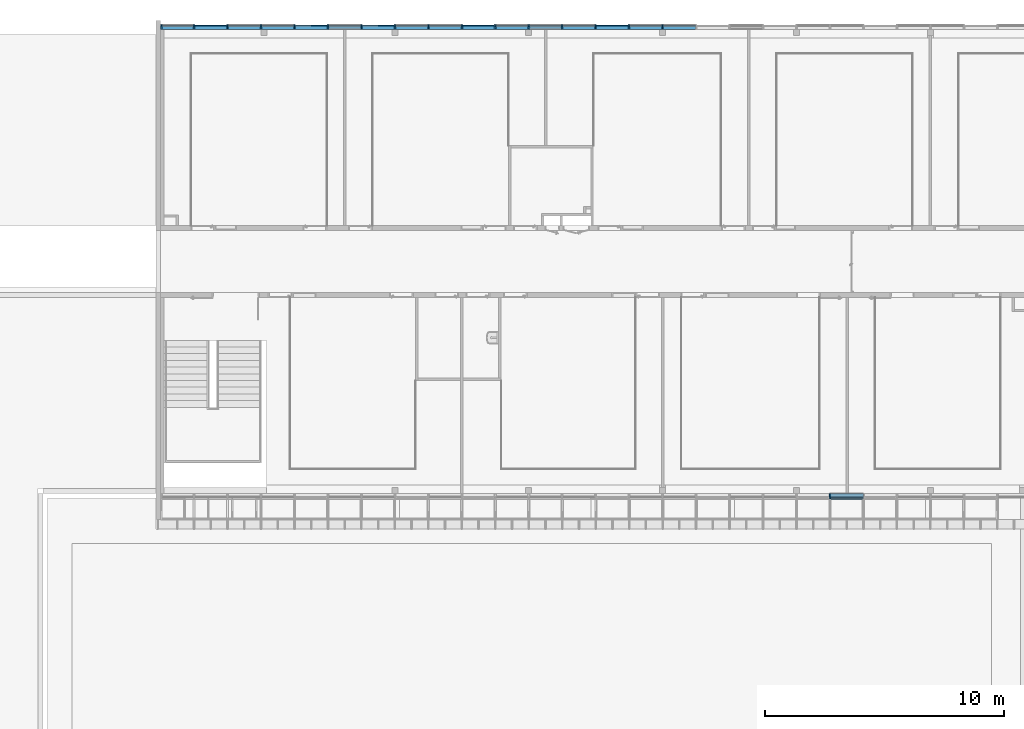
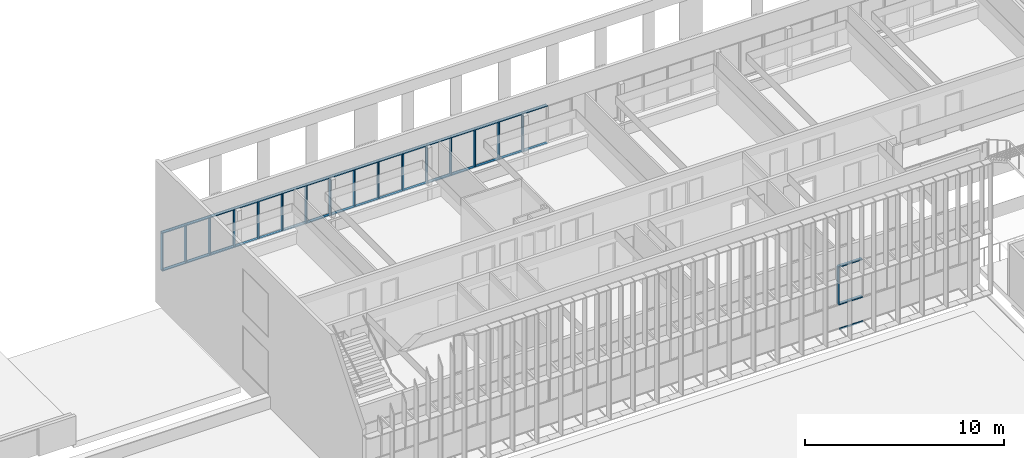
# One storey, part 9 of 106: 52 members, 3 elements without a shape of their own.
"""IFC2X3 building model written with IfcOpenShell, lengths in centimetres."""

from ifc_helpers import new_model, entity, si_unit, converted_unit, derived_unit, direction, frame, origin, origin_2d_with_axis, place, context, subcontext, project, spatial, polyline, rectangle, outline, extrude, source, transform, mapped, material, type_object, type_shapes, element, aggregate, save


model = new_model("IFC2X3")

# Units and contexts
model_context = context("Model", 3, precision=0.001, world=origin(), true_north=direction((6.12303176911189e-17, 1.0)))
body_context = subcontext(model_context, "Body", "Model", "MODEL_VIEW")
ifc_project = project(units=[si_unit("LENGTHUNIT", "METRE", prefix="CENTI"), si_unit("AREAUNIT", "SQUARE_METRE"), si_unit("VOLUMEUNIT", "CUBIC_METRE"), converted_unit("PLANEANGLEUNIT", "DEGREE", entity("IfcRatioMeasure", 0.0174532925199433), si_unit("PLANEANGLEUNIT", "RADIAN"), dimensions=[0, 0, 0, 0, 0, 0, 0]), si_unit("MASSUNIT", "GRAM", prefix="KILO"), derived_unit("MASSDENSITYUNIT", [(si_unit("MASSUNIT", "GRAM", prefix="KILO"), 1), (si_unit("LENGTHUNIT", "METRE"), -3)]), si_unit("TIMEUNIT", "SECOND"), si_unit("FREQUENCYUNIT", "HERTZ"), si_unit("THERMODYNAMICTEMPERATUREUNIT", "DEGREE_CELSIUS"), derived_unit("THERMALTRANSMITTANCEUNIT", [(si_unit("MASSUNIT", "GRAM", prefix="KILO"), 1), (si_unit("THERMODYNAMICTEMPERATUREUNIT", "KELVIN"), -1), (si_unit("TIMEUNIT", "SECOND"), -3)]), derived_unit("VOLUMETRICFLOWRATEUNIT", [(si_unit("LENGTHUNIT", "METRE"), 3), (si_unit("TIMEUNIT", "SECOND"), -1)]), si_unit("ELECTRICCURRENTUNIT", "AMPERE"), si_unit("ELECTRICVOLTAGEUNIT", "VOLT"), si_unit("POWERUNIT", "WATT"), si_unit("FORCEUNIT", "NEWTON", prefix="KILO"), si_unit("ILLUMINANCEUNIT", "LUX"), si_unit("LUMINOUSFLUXUNIT", "LUMEN"), si_unit("LUMINOUSINTENSITYUNIT", "CANDELA"), derived_unit("USERDEFINED", [(si_unit("MASSUNIT", "GRAM", prefix="KILO"), -1), (si_unit("LENGTHUNIT", "METRE"), -2), (si_unit("TIMEUNIT", "SECOND"), 3), (si_unit("LUMINOUSFLUXUNIT", "LUMEN"), 1)]), derived_unit("LINEARVELOCITYUNIT", [(si_unit("LENGTHUNIT", "METRE"), 1), (si_unit("TIMEUNIT", "SECOND"), -1)]), si_unit("PRESSUREUNIT", "PASCAL"), derived_unit("USERDEFINED", [(si_unit("LENGTHUNIT", "METRE"), -2), (si_unit("MASSUNIT", "GRAM", prefix="KILO"), 1), (si_unit("TIMEUNIT", "SECOND"), -2)])], contexts=[model_context])

# Site, building, storey
site_placement = place(None, frame((-2781.94577612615, 7442.24238424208, 0.0)))
site = spatial("IfcSite", under=ifc_project, at=site_placement, Name="Default", CompositionType="ELEMENT")
building_placement = place(site_placement, origin())
building = spatial("IfcBuilding", under=site, at=building_placement, CompositionType="ELEMENT")
storey_placement = place(building_placement, frame((0.0, 0.0, 422.0)))
storey = spatial("IfcBuildingStorey", under=building, at=storey_placement, Name="Toiture - Cuisine", CompositionType="ELEMENT", Elevation=421.999999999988)

# Roof, member
curtain_wall_type_1 = type_object("IfcCurtainWallType", Name="Vitres inclinées:Toit en verre 1 m x 2 m", PredefinedType="NOTDEFINED")
roof_placement = place(building_placement, origin())
roof = element("IfcRoof", 1, at=roof_placement, inside=storey, type_object=curtain_wall_type_1, Name="Vitres inclinées:Toit en verre 1 m x 2 m", ObjectType="Vitres inclinées:Toit en verre 1 m x 2 m", ShapeType="NOTDEFINED")
ifc_material_1 = material(Name="Plastique, blanc opaque")
member_type_1 = type_object("IfcMemberType", Name="100 x 50mm", PredefinedType="MEMBER")
shared_shape_1 = source(origin(), body_context, "Body", "SweptSolid", [
    extrude(rectangle(XDim=10.0, YDim=5.0, at=origin_2d_with_axis()), frame((-2.5, 0.0, -140.0), z_axis=(0.0, 0.0, 1.0), x_axis=(0.0, -1.0, 0.0)), (0.0, 0.0, 1.0), 140.0),
])
type_shapes(member_type_1, [shared_shape_1])
member_1_placement = place(building_placement, frame((-5609.50004166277, -1950.34071342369, 362.709847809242), z_axis=(-1.0, 0.0, 0.0), x_axis=(0.0, 0.998629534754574, 0.0523359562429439)))
member_1 = element("IfcMember", 2, at=member_1_placement, type_object=member_type_1, material=ifc_material_1, Name="Meneau rectangulaire:100 x 50mm", ObjectType="Meneau rectangulaire:100 x 50mm", context=body_context, shape_type="MappedRepresentation", body=[
    mapped(shared_shape_1, transform((0.0, 0.0, 0.0), scale=1.0)),
])
aggregate(roof, [member_1])

# Curtain wall, members
curtain_wall_type_2 = type_object("IfcCurtainWallType", Name="Mur-rideau:07 - mur rideau trame 140 cm", PredefinedType="NOTDEFINED")
curtain_wall_1_placement = place(building_placement, origin())
curtain_wall_1 = element("IfcCurtainWall", 3, at=curtain_wall_1_placement, inside=storey, type_object=curtain_wall_type_2, Name="Mur-rideau:07 - mur rideau trame 140 cm", ObjectType="Mur-rideau:07 - mur rideau trame 140 cm")
ifc_material_2 = material(Name="Aluminium")
member_type_2 = type_object("IfcMemberType", Name="150 x 25mm Détails", PredefinedType="MEMBER")
shared_shape_2 = source(origin(), body_context, "Body", "SweptSolid", [
    extrude(outline(polyline([(-5.6666666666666, -3.24999999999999), (-3.66666666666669, -3.24999999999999), (-3.66666666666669, -0.868749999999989), (-0.166666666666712, -0.868749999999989), (-0.166666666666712, -3.25000000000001), (13.3333333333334, -3.25000000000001), (13.3333333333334, 3.24999999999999), (-0.16666666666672, 3.24999999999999), (-0.16666666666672, 0.868749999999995), (-3.66666666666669, 0.868749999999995), (-3.66666666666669, 3.25), (-5.6666666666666, 3.25), (-5.6666666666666, -3.24999999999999)])), frame((-3.24999999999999, -1.96666666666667, -140.0), z_axis=(0.0, 0.0, 1.0), x_axis=(0.0, -1.0, 0.0)), (0.0, 0.0, 1.0), 140.000000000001),
])
type_shapes(member_type_2, [shared_shape_2])
member_2_placement = place(building_placement, frame((-6309.50004159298, 26.0, 743.0), z_axis=(-1.0, 0.0, 0.0), x_axis=(0.0, 0.0, 1.0)))
member_2 = element("IfcMember", 4, at=member_2_placement, type_object=member_type_2, material=ifc_material_2, Name="Meneau rectangulaire:150 x 25mm Détails", ObjectType="Meneau rectangulaire:150 x 25mm Détails", context=body_context, shape_type="MappedRepresentation", body=[
    mapped(shared_shape_2, transform((0.0, 0.0, 0.0), scale=1.0)),
])
member_3_placement = place(building_placement, frame((-6449.50004159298, 26.0, 743.0), z_axis=(-1.0, 0.0, 0.0), x_axis=(0.0, 0.0, 1.0)))
member_3 = element("IfcMember", 5, at=member_3_placement, type_object=member_type_2, material=ifc_material_2, Name="Meneau rectangulaire:150 x 25mm Détails", ObjectType="Meneau rectangulaire:150 x 25mm Détails", context=body_context, shape_type="MappedRepresentation", body=[
    mapped(shared_shape_2, transform((0.0, 0.0, 0.0), scale=1.0)),
])
member_4_placement = place(building_placement, frame((-6589.50004159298, 26.0, 743.0), z_axis=(-1.0, 0.0, 0.0), x_axis=(0.0, 0.0, 1.0)))
member_4 = element("IfcMember", 6, at=member_4_placement, type_object=member_type_2, material=ifc_material_2, Name="Meneau rectangulaire:150 x 25mm Détails", ObjectType="Meneau rectangulaire:150 x 25mm Détails", context=body_context, shape_type="MappedRepresentation", body=[
    mapped(shared_shape_2, transform((0.0, 0.0, 0.0), scale=1.0)),
])
member_5_placement = place(building_placement, frame((-6729.50004159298, 26.0, 743.0), z_axis=(-1.0, 0.0, 0.0), x_axis=(0.0, 0.0, 1.0)))
member_5 = element("IfcMember", 7, at=member_5_placement, type_object=member_type_2, material=ifc_material_2, Name="Meneau rectangulaire:150 x 25mm Détails", ObjectType="Meneau rectangulaire:150 x 25mm Détails", context=body_context, shape_type="MappedRepresentation", body=[
    mapped(shared_shape_2, transform((0.0, 0.0, 0.0), scale=1.0)),
])
member_6_placement = place(building_placement, frame((-6869.50004159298, 26.0, 743.0), z_axis=(-1.0, 0.0, 0.0), x_axis=(0.0, 0.0, 1.0)))
member_6 = element("IfcMember", 8, at=member_6_placement, type_object=member_type_2, material=ifc_material_2, Name="Meneau rectangulaire:150 x 25mm Détails", ObjectType="Meneau rectangulaire:150 x 25mm Détails", context=body_context, shape_type="MappedRepresentation", body=[
    mapped(shared_shape_2, transform((0.0, 0.0, 0.0), scale=1.0)),
])
member_7_placement = place(building_placement, frame((-7009.50004159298, 26.0, 743.0), z_axis=(-1.0, 0.0, 0.0), x_axis=(0.0, 0.0, 1.0)))
member_7 = element("IfcMember", 9, at=member_7_placement, type_object=member_type_2, material=ifc_material_2, Name="Meneau rectangulaire:150 x 25mm Détails", ObjectType="Meneau rectangulaire:150 x 25mm Détails", context=body_context, shape_type="MappedRepresentation", body=[
    mapped(shared_shape_2, transform((0.0, 0.0, 0.0), scale=1.0)),
])
member_8_placement = place(building_placement, frame((-7149.50004159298, 26.0, 743.0), z_axis=(-1.0, 0.0, 0.0), x_axis=(0.0, 0.0, 1.0)))
member_8 = element("IfcMember", 10, at=member_8_placement, type_object=member_type_2, material=ifc_material_2, Name="Meneau rectangulaire:150 x 25mm Détails", ObjectType="Meneau rectangulaire:150 x 25mm Détails", context=body_context, shape_type="MappedRepresentation", body=[
    mapped(shared_shape_2, transform((0.0, 0.0, 0.0), scale=1.0)),
])
member_9_placement = place(building_placement, frame((-7289.50004159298, 26.0, 743.0), z_axis=(-1.0, 0.0, 0.0), x_axis=(0.0, 0.0, 1.0)))
member_9 = element("IfcMember", 11, at=member_9_placement, type_object=member_type_2, material=ifc_material_2, Name="Meneau rectangulaire:150 x 25mm Détails", ObjectType="Meneau rectangulaire:150 x 25mm Détails", context=body_context, shape_type="MappedRepresentation", body=[
    mapped(shared_shape_2, transform((0.0, 0.0, 0.0), scale=1.0)),
])
member_10_placement = place(building_placement, frame((-7429.50004159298, 26.0, 743.0), z_axis=(-1.0, 0.0, 0.0), x_axis=(0.0, 0.0, 1.0)))
member_10 = element("IfcMember", 12, at=member_10_placement, type_object=member_type_2, material=ifc_material_2, Name="Meneau rectangulaire:150 x 25mm Détails", ObjectType="Meneau rectangulaire:150 x 25mm Détails", context=body_context, shape_type="MappedRepresentation", body=[
    mapped(shared_shape_2, transform((0.0, 0.0, 0.0), scale=1.0)),
])
member_11_placement = place(building_placement, frame((-7569.50004159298, 26.0, 743.0), z_axis=(-1.0, 0.0, 0.0), x_axis=(0.0, 0.0, 1.0)))
member_11 = element("IfcMember", 13, at=member_11_placement, type_object=member_type_2, material=ifc_material_2, Name="Meneau rectangulaire:150 x 25mm Détails", ObjectType="Meneau rectangulaire:150 x 25mm Détails", context=body_context, shape_type="MappedRepresentation", body=[
    mapped(shared_shape_2, transform((0.0, 0.0, 0.0), scale=1.0)),
])
member_12_placement = place(building_placement, frame((-7709.50004159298, 26.0, 743.0), z_axis=(-1.0, 0.0, 0.0), x_axis=(0.0, 0.0, 1.0)))
member_12 = element("IfcMember", 14, at=member_12_placement, type_object=member_type_2, material=ifc_material_2, Name="Meneau rectangulaire:150 x 25mm Détails", ObjectType="Meneau rectangulaire:150 x 25mm Détails", context=body_context, shape_type="MappedRepresentation", body=[
    mapped(shared_shape_2, transform((0.0, 0.0, 0.0), scale=1.0)),
])
member_13_placement = place(building_placement, frame((-7849.50004159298, 26.0, 743.0), z_axis=(-1.0, 0.0, 0.0), x_axis=(0.0, 0.0, 1.0)))
member_13 = element("IfcMember", 15, at=member_13_placement, type_object=member_type_2, material=ifc_material_2, Name="Meneau rectangulaire:150 x 25mm Détails", ObjectType="Meneau rectangulaire:150 x 25mm Détails", context=body_context, shape_type="MappedRepresentation", body=[
    mapped(shared_shape_2, transform((0.0, 0.0, 0.0), scale=1.0)),
])
member_14_placement = place(building_placement, frame((-7989.50004159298, 26.0, 743.0), z_axis=(-1.0, 0.0, 0.0), x_axis=(0.0, 0.0, 1.0)))
member_14 = element("IfcMember", 16, at=member_14_placement, type_object=member_type_2, material=ifc_material_2, Name="Meneau rectangulaire:150 x 25mm Détails", ObjectType="Meneau rectangulaire:150 x 25mm Détails", context=body_context, shape_type="MappedRepresentation", body=[
    mapped(shared_shape_2, transform((0.0, 0.0, 0.0), scale=1.0)),
])
member_15_placement = place(building_placement, frame((-8129.50004159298, 26.0, 743.0), z_axis=(-1.0, 0.0, 0.0), x_axis=(0.0, 0.0, 1.0)))
member_15 = element("IfcMember", 17, at=member_15_placement, type_object=member_type_2, material=ifc_material_2, Name="Meneau rectangulaire:150 x 25mm Détails", ObjectType="Meneau rectangulaire:150 x 25mm Détails", context=body_context, shape_type="MappedRepresentation", body=[
    mapped(shared_shape_2, transform((0.0, 0.0, 0.0), scale=1.0)),
])
member_16_placement = place(building_placement, frame((-8269.50004159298, 26.0, 743.0), z_axis=(-1.0, 0.0, 0.0), x_axis=(0.0, 0.0, 1.0)))
member_16 = element("IfcMember", 18, at=member_16_placement, type_object=member_type_2, material=ifc_material_2, Name="Meneau rectangulaire:150 x 25mm Détails", ObjectType="Meneau rectangulaire:150 x 25mm Détails", context=body_context, shape_type="MappedRepresentation", body=[
    mapped(shared_shape_2, transform((0.0, 0.0, 0.0), scale=1.0)),
])

# Curtain wall, member
curtain_wall_2_placement = place(building_placement, origin())
curtain_wall_2 = element("IfcCurtainWall", 19, at=curtain_wall_2_placement, inside=storey, type_object=curtain_wall_type_2, Name="Mur-rideau:07 - mur rideau trame 140 cm", ObjectType="Mur-rideau:07 - mur rideau trame 140 cm")
member_17_placement = place(building_placement, frame((-5469.49987763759, -1946.27903364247, 743.0), z_axis=(1.0, 0.0, 0.0), x_axis=(0.0, 0.0, 1.0)))
member_17 = element("IfcMember", 20, at=member_17_placement, type_object=member_type_2, material=ifc_material_2, Name="Meneau rectangulaire:150 x 25mm Détails", ObjectType="Meneau rectangulaire:150 x 25mm Détails", context=body_context, shape_type="MappedRepresentation", body=[
    mapped(shared_shape_2, transform((0.0, 0.0, 0.0), scale=1.0)),
])

# Member
member_type_3 = type_object("IfcMemberType", Name="150 x 25mm Détails", PredefinedType="MEMBER")
shared_shape_3 = source(origin(), body_context, "Body", "SweptSolid", [
    extrude(outline(polyline([(-5.66666666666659, -3.25), (-3.66666666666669, -3.25), (-3.66666666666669, -0.868749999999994), (-0.166666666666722, -0.868749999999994), (-0.166666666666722, -3.25000000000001), (13.3333333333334, -3.24999999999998), (13.3333333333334, 3.25000000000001), (-0.166666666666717, 3.25000000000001), (-0.166666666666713, 0.868749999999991), (-3.66666666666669, 0.868749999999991), (-3.66666666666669, 3.24999999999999), (-5.66666666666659, 3.24999999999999), (-5.66666666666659, -3.25)])), frame((-3.24999999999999, -1.96666666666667, -140.0), z_axis=(0.0, 0.0, 1.0), x_axis=(0.0, -1.0, 0.0)), (0.0, 0.0, 1.0), 140.000000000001),
])
type_shapes(member_type_3, [shared_shape_3])
member_18_placement = place(building_placement, frame((-6169.50004159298, 26.0, 505.5), z_axis=(1.0, 0.0, 0.0), x_axis=(0.0, 0.0, -1.0)))
member_18 = element("IfcMember", 21, at=member_18_placement, type_object=member_type_3, material=ifc_material_2, Name="Meneau rectangulaire:150 x 25mm Détails", ObjectType="Meneau rectangulaire:150 x 25mm Détails", context=body_context, shape_type="MappedRepresentation", body=[
    mapped(shared_shape_3, transform((0.0, 0.0, 0.0), scale=1.0)),
])

member_19_placement = place(building_placement, frame((-6309.50004159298, 26.0, 505.5), z_axis=(1.0, 0.0, 0.0), x_axis=(0.0, 0.0, -1.0)))
member_19 = element("IfcMember", 22, at=member_19_placement, type_object=member_type_3, material=ifc_material_2, Name="Meneau rectangulaire:150 x 25mm Détails", ObjectType="Meneau rectangulaire:150 x 25mm Détails", context=body_context, shape_type="MappedRepresentation", body=[
    mapped(shared_shape_3, transform((0.0, 0.0, 0.0), scale=1.0)),
])

member_20_placement = place(building_placement, frame((-6449.50004159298, 26.0, 505.5), z_axis=(1.0, 0.0, 0.0), x_axis=(0.0, 0.0, -1.0)))
member_20 = element("IfcMember", 23, at=member_20_placement, type_object=member_type_3, material=ifc_material_2, Name="Meneau rectangulaire:150 x 25mm Détails", ObjectType="Meneau rectangulaire:150 x 25mm Détails", context=body_context, shape_type="MappedRepresentation", body=[
    mapped(shared_shape_3, transform((0.0, 0.0, 0.0), scale=1.0)),
])

member_21_placement = place(building_placement, frame((-6589.50004159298, 26.0, 505.5), z_axis=(1.0, 0.0, 0.0), x_axis=(0.0, 0.0, -1.0)))
member_21 = element("IfcMember", 24, at=member_21_placement, type_object=member_type_3, material=ifc_material_2, Name="Meneau rectangulaire:150 x 25mm Détails", ObjectType="Meneau rectangulaire:150 x 25mm Détails", context=body_context, shape_type="MappedRepresentation", body=[
    mapped(shared_shape_3, transform((0.0, 0.0, 0.0), scale=1.0)),
])

member_22_placement = place(building_placement, frame((-6729.50004159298, 26.0, 505.5), z_axis=(1.0, 0.0, 0.0), x_axis=(0.0, 0.0, -1.0)))
member_22 = element("IfcMember", 25, at=member_22_placement, type_object=member_type_3, material=ifc_material_2, Name="Meneau rectangulaire:150 x 25mm Détails", ObjectType="Meneau rectangulaire:150 x 25mm Détails", context=body_context, shape_type="MappedRepresentation", body=[
    mapped(shared_shape_3, transform((0.0, 0.0, 0.0), scale=1.0)),
])

member_23_placement = place(building_placement, frame((-6869.50004159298, 26.0, 505.5), z_axis=(1.0, 0.0, 0.0), x_axis=(0.0, 0.0, -1.0)))
member_23 = element("IfcMember", 26, at=member_23_placement, type_object=member_type_3, material=ifc_material_2, Name="Meneau rectangulaire:150 x 25mm Détails", ObjectType="Meneau rectangulaire:150 x 25mm Détails", context=body_context, shape_type="MappedRepresentation", body=[
    mapped(shared_shape_3, transform((0.0, 0.0, 0.0), scale=1.0)),
])

member_24_placement = place(building_placement, frame((-7009.50004159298, 26.0, 505.5), z_axis=(1.0, 0.0, 0.0), x_axis=(0.0, 0.0, -1.0)))
member_24 = element("IfcMember", 27, at=member_24_placement, type_object=member_type_3, material=ifc_material_2, Name="Meneau rectangulaire:150 x 25mm Détails", ObjectType="Meneau rectangulaire:150 x 25mm Détails", context=body_context, shape_type="MappedRepresentation", body=[
    mapped(shared_shape_3, transform((0.0, 0.0, 0.0), scale=1.0)),
])

member_25_placement = place(building_placement, frame((-7149.50004159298, 26.0, 505.5), z_axis=(1.0, 0.0, 0.0), x_axis=(0.0, 0.0, -1.0)))
member_25 = element("IfcMember", 28, at=member_25_placement, type_object=member_type_3, material=ifc_material_2, Name="Meneau rectangulaire:150 x 25mm Détails", ObjectType="Meneau rectangulaire:150 x 25mm Détails", context=body_context, shape_type="MappedRepresentation", body=[
    mapped(shared_shape_3, transform((0.0, 0.0, 0.0), scale=1.0)),
])

member_26_placement = place(building_placement, frame((-7289.50004159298, 26.0, 505.5), z_axis=(1.0, 0.0, 0.0), x_axis=(0.0, 0.0, -1.0)))
member_26 = element("IfcMember", 29, at=member_26_placement, type_object=member_type_3, material=ifc_material_2, Name="Meneau rectangulaire:150 x 25mm Détails", ObjectType="Meneau rectangulaire:150 x 25mm Détails", context=body_context, shape_type="MappedRepresentation", body=[
    mapped(shared_shape_3, transform((0.0, 0.0, 0.0), scale=1.0)),
])

member_27_placement = place(building_placement, frame((-7429.50004159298, 26.0, 505.5), z_axis=(1.0, 0.0, 0.0), x_axis=(0.0, 0.0, -1.0)))
member_27 = element("IfcMember", 30, at=member_27_placement, type_object=member_type_3, material=ifc_material_2, Name="Meneau rectangulaire:150 x 25mm Détails", ObjectType="Meneau rectangulaire:150 x 25mm Détails", context=body_context, shape_type="MappedRepresentation", body=[
    mapped(shared_shape_3, transform((0.0, 0.0, 0.0), scale=1.0)),
])

member_28_placement = place(building_placement, frame((-7569.50004159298, 26.0, 505.5), z_axis=(1.0, 0.0, 0.0), x_axis=(0.0, 0.0, -1.0)))
member_28 = element("IfcMember", 31, at=member_28_placement, type_object=member_type_3, material=ifc_material_2, Name="Meneau rectangulaire:150 x 25mm Détails", ObjectType="Meneau rectangulaire:150 x 25mm Détails", context=body_context, shape_type="MappedRepresentation", body=[
    mapped(shared_shape_3, transform((0.0, 0.0, 0.0), scale=1.0)),
])

member_29_placement = place(building_placement, frame((-7709.50004159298, 26.0, 505.5), z_axis=(1.0, 0.0, 0.0), x_axis=(0.0, 0.0, -1.0)))
member_29 = element("IfcMember", 32, at=member_29_placement, type_object=member_type_3, material=ifc_material_2, Name="Meneau rectangulaire:150 x 25mm Détails", ObjectType="Meneau rectangulaire:150 x 25mm Détails", context=body_context, shape_type="MappedRepresentation", body=[
    mapped(shared_shape_3, transform((0.0, 0.0, 0.0), scale=1.0)),
])

member_30_placement = place(building_placement, frame((-7849.50004159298, 26.0, 505.5), z_axis=(1.0, 0.0, 0.0), x_axis=(0.0, 0.0, -1.0)))
member_30 = element("IfcMember", 33, at=member_30_placement, type_object=member_type_3, material=ifc_material_2, Name="Meneau rectangulaire:150 x 25mm Détails", ObjectType="Meneau rectangulaire:150 x 25mm Détails", context=body_context, shape_type="MappedRepresentation", body=[
    mapped(shared_shape_3, transform((0.0, 0.0, 0.0), scale=1.0)),
])

member_31_placement = place(building_placement, frame((-7989.50004159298, 26.0, 505.5), z_axis=(1.0, 0.0, 0.0), x_axis=(0.0, 0.0, -1.0)))
member_31 = element("IfcMember", 34, at=member_31_placement, type_object=member_type_3, material=ifc_material_2, Name="Meneau rectangulaire:150 x 25mm Détails", ObjectType="Meneau rectangulaire:150 x 25mm Détails", context=body_context, shape_type="MappedRepresentation", body=[
    mapped(shared_shape_3, transform((0.0, 0.0, 0.0), scale=1.0)),
])

member_32_placement = place(building_placement, frame((-8129.50004159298, 26.0, 505.5), z_axis=(1.0, 0.0, 0.0), x_axis=(0.0, 0.0, -1.0)))
member_32 = element("IfcMember", 35, at=member_32_placement, type_object=member_type_3, material=ifc_material_2, Name="Meneau rectangulaire:150 x 25mm Détails", ObjectType="Meneau rectangulaire:150 x 25mm Détails", context=body_context, shape_type="MappedRepresentation", body=[
    mapped(shared_shape_3, transform((0.0, 0.0, 0.0), scale=1.0)),
])

member_33_placement = place(building_placement, frame((-5609.49987763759, -1946.27903364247, 505.5), z_axis=(-1.0, 0.0, 0.0), x_axis=(0.0, 0.0, -1.0)))
member_33 = element("IfcMember", 36, at=member_33_placement, type_object=member_type_3, material=ifc_material_2, Name="Meneau rectangulaire:150 x 25mm Détails", ObjectType="Meneau rectangulaire:150 x 25mm Détails", context=body_context, shape_type="MappedRepresentation", body=[
    mapped(shared_shape_3, transform((0.0, 0.0, 0.0), scale=1.0)),
])

member_type_4 = type_object("IfcMemberType", Name="150 x 25mm Détails", PredefinedType="MEMBER")
shared_shape_4 = source(origin(), body_context, "Body", "SweptSolid", [
    extrude(outline(polyline([(-5.6666666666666, -3.24999999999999), (-3.66666666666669, -3.24999999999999), (-3.66666666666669, -0.868749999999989), (-0.166666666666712, -0.868749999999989), (-0.166666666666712, -3.25000000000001), (13.3333333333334, -3.25000000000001), (13.3333333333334, 3.24999999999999), (-0.16666666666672, 3.24999999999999), (-0.16666666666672, 0.868749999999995), (-3.66666666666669, 0.868749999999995), (-3.66666666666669, 3.25), (-5.6666666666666, 3.25), (-5.6666666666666, -3.24999999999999)])), frame((-3.24999999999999, -1.96666666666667, -224.5), z_axis=(0.0, 0.0, 1.0), x_axis=(0.0, -1.0, 0.0)), (0.0, 0.0, 1.0), 224.5),
])
type_shapes(member_type_4, [shared_shape_4])
member_34_placement = place(building_placement, frame((-8409.49987766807, 26.0, 512.0), z_axis=(0.0, 0.0, -1.0), x_axis=(-1.0, 0.0, 0.0)))
member_34 = element("IfcMember", 37, at=member_34_placement, type_object=member_type_4, material=ifc_material_2, Name="Meneau rectangulaire:150 x 25mm Détails", ObjectType="Meneau rectangulaire:150 x 25mm Détails", context=body_context, shape_type="MappedRepresentation", body=[
    mapped(shared_shape_4, transform((0.0, 0.0, 0.0), scale=1.0)),
])

member_type_5 = type_object("IfcMemberType", Name="150 x 25mm Détails", PredefinedType="MEMBER")
shared_shape_5 = source(origin(), body_context, "Body", "SweptSolid", [
    extrude(outline(polyline([(-5.6666666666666, -3.24999999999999), (-3.66666666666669, -3.24999999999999), (-3.66666666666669, -0.86874999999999), (-0.166666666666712, -0.86874999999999), (-0.166666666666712, -3.25000000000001), (13.3333333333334, -3.25000000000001), (13.3333333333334, 3.24999999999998), (-0.16666666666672, 3.24999999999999), (-0.16666666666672, 0.868749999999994), (-3.66666666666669, 0.868749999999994), (-3.66666666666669, 3.25), (-5.6666666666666, 3.25), (-5.6666666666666, -3.24999999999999)])), frame((0.0, -1.96666666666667, -224.5), z_axis=(0.0, 0.0, 1.0), x_axis=(0.0, -1.0, 0.0)), (0.0, 0.0, 1.0), 224.5),
])
type_shapes(member_type_5, [shared_shape_5])
member_35_placement = place(building_placement, frame((-6309.50004159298, 26.0, 512.0), z_axis=(0.0, 0.0, -1.0), x_axis=(-1.0, 0.0, 0.0)))
member_35 = element("IfcMember", 38, at=member_35_placement, type_object=member_type_5, material=ifc_material_2, Name="Meneau rectangulaire:150 x 25mm Détails", ObjectType="Meneau rectangulaire:150 x 25mm Détails", context=body_context, shape_type="MappedRepresentation", body=[
    mapped(shared_shape_5, transform((0.0, 0.0, 0.0), scale=1.0)),
])

member_36_placement = place(building_placement, frame((-6449.50004159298, 26.0, 512.0), z_axis=(0.0, 0.0, -1.0), x_axis=(-1.0, 0.0, 0.0)))
member_36 = element("IfcMember", 39, at=member_36_placement, type_object=member_type_5, material=ifc_material_2, Name="Meneau rectangulaire:150 x 25mm Détails", ObjectType="Meneau rectangulaire:150 x 25mm Détails", context=body_context, shape_type="MappedRepresentation", body=[
    mapped(shared_shape_5, transform((0.0, 0.0, 0.0), scale=1.0)),
])

member_37_placement = place(building_placement, frame((-6589.50004159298, 26.0, 512.0), z_axis=(0.0, 0.0, -1.0), x_axis=(-1.0, 0.0, 0.0)))
member_37 = element("IfcMember", 40, at=member_37_placement, type_object=member_type_5, material=ifc_material_2, Name="Meneau rectangulaire:150 x 25mm Détails", ObjectType="Meneau rectangulaire:150 x 25mm Détails", context=body_context, shape_type="MappedRepresentation", body=[
    mapped(shared_shape_5, transform((0.0, 0.0, 0.0), scale=1.0)),
])

member_38_placement = place(building_placement, frame((-6729.50004159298, 26.0, 512.0), z_axis=(0.0, 0.0, -1.0), x_axis=(-1.0, 0.0, 0.0)))
member_38 = element("IfcMember", 41, at=member_38_placement, type_object=member_type_5, material=ifc_material_2, Name="Meneau rectangulaire:150 x 25mm Détails", ObjectType="Meneau rectangulaire:150 x 25mm Détails", context=body_context, shape_type="MappedRepresentation", body=[
    mapped(shared_shape_5, transform((0.0, 0.0, 0.0), scale=1.0)),
])

member_39_placement = place(building_placement, frame((-6869.50004159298, 26.0, 512.0), z_axis=(0.0, 0.0, -1.0), x_axis=(-1.0, 0.0, 0.0)))
member_39 = element("IfcMember", 42, at=member_39_placement, type_object=member_type_5, material=ifc_material_2, Name="Meneau rectangulaire:150 x 25mm Détails", ObjectType="Meneau rectangulaire:150 x 25mm Détails", context=body_context, shape_type="MappedRepresentation", body=[
    mapped(shared_shape_5, transform((0.0, 0.0, 0.0), scale=1.0)),
])

member_40_placement = place(building_placement, frame((-7009.50004159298, 26.0, 512.0), z_axis=(0.0, 0.0, -1.0), x_axis=(-1.0, 0.0, 0.0)))
member_40 = element("IfcMember", 43, at=member_40_placement, type_object=member_type_5, material=ifc_material_2, Name="Meneau rectangulaire:150 x 25mm Détails", ObjectType="Meneau rectangulaire:150 x 25mm Détails", context=body_context, shape_type="MappedRepresentation", body=[
    mapped(shared_shape_5, transform((0.0, 0.0, 0.0), scale=1.0)),
])

member_41_placement = place(building_placement, frame((-7149.50004159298, 26.0, 512.0), z_axis=(0.0, 0.0, -1.0), x_axis=(-1.0, 0.0, 0.0)))
member_41 = element("IfcMember", 44, at=member_41_placement, type_object=member_type_5, material=ifc_material_2, Name="Meneau rectangulaire:150 x 25mm Détails", ObjectType="Meneau rectangulaire:150 x 25mm Détails", context=body_context, shape_type="MappedRepresentation", body=[
    mapped(shared_shape_5, transform((0.0, 0.0, 0.0), scale=1.0)),
])

member_42_placement = place(building_placement, frame((-7289.50004159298, 26.0, 512.0), z_axis=(0.0, 0.0, -1.0), x_axis=(-1.0, 0.0, 0.0)))
member_42 = element("IfcMember", 45, at=member_42_placement, type_object=member_type_5, material=ifc_material_2, Name="Meneau rectangulaire:150 x 25mm Détails", ObjectType="Meneau rectangulaire:150 x 25mm Détails", context=body_context, shape_type="MappedRepresentation", body=[
    mapped(shared_shape_5, transform((0.0, 0.0, 0.0), scale=1.0)),
])

member_43_placement = place(building_placement, frame((-7429.50004159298, 26.0, 512.0), z_axis=(0.0, 0.0, -1.0), x_axis=(-1.0, 0.0, 0.0)))
member_43 = element("IfcMember", 46, at=member_43_placement, type_object=member_type_5, material=ifc_material_2, Name="Meneau rectangulaire:150 x 25mm Détails", ObjectType="Meneau rectangulaire:150 x 25mm Détails", context=body_context, shape_type="MappedRepresentation", body=[
    mapped(shared_shape_5, transform((0.0, 0.0, 0.0), scale=1.0)),
])

member_44_placement = place(building_placement, frame((-7569.50004159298, 26.0, 512.0), z_axis=(0.0, 0.0, -1.0), x_axis=(-1.0, 0.0, 0.0)))
member_44 = element("IfcMember", 47, at=member_44_placement, type_object=member_type_5, material=ifc_material_2, Name="Meneau rectangulaire:150 x 25mm Détails", ObjectType="Meneau rectangulaire:150 x 25mm Détails", context=body_context, shape_type="MappedRepresentation", body=[
    mapped(shared_shape_5, transform((0.0, 0.0, 0.0), scale=1.0)),
])

member_45_placement = place(building_placement, frame((-7709.50004159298, 26.0, 512.0), z_axis=(0.0, 0.0, -1.0), x_axis=(-1.0, 0.0, 0.0)))
member_45 = element("IfcMember", 48, at=member_45_placement, type_object=member_type_5, material=ifc_material_2, Name="Meneau rectangulaire:150 x 25mm Détails", ObjectType="Meneau rectangulaire:150 x 25mm Détails", context=body_context, shape_type="MappedRepresentation", body=[
    mapped(shared_shape_5, transform((0.0, 0.0, 0.0), scale=1.0)),
])

member_46_placement = place(building_placement, frame((-7849.50004159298, 26.0, 512.0), z_axis=(0.0, 0.0, -1.0), x_axis=(-1.0, 0.0, 0.0)))
member_46 = element("IfcMember", 49, at=member_46_placement, type_object=member_type_5, material=ifc_material_2, Name="Meneau rectangulaire:150 x 25mm Détails", ObjectType="Meneau rectangulaire:150 x 25mm Détails", context=body_context, shape_type="MappedRepresentation", body=[
    mapped(shared_shape_5, transform((0.0, 0.0, 0.0), scale=1.0)),
])

member_47_placement = place(building_placement, frame((-7989.50004159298, 26.0, 512.0), z_axis=(0.0, 0.0, -1.0), x_axis=(-1.0, 0.0, 0.0)))
member_47 = element("IfcMember", 50, at=member_47_placement, type_object=member_type_5, material=ifc_material_2, Name="Meneau rectangulaire:150 x 25mm Détails", ObjectType="Meneau rectangulaire:150 x 25mm Détails", context=body_context, shape_type="MappedRepresentation", body=[
    mapped(shared_shape_5, transform((0.0, 0.0, 0.0), scale=1.0)),
])

member_48_placement = place(building_placement, frame((-8129.50004159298, 26.0, 512.0), z_axis=(0.0, 0.0, -1.0), x_axis=(-1.0, 0.0, 0.0)))
member_48 = element("IfcMember", 51, at=member_48_placement, type_object=member_type_5, material=ifc_material_2, Name="Meneau rectangulaire:150 x 25mm Détails", ObjectType="Meneau rectangulaire:150 x 25mm Détails", context=body_context, shape_type="MappedRepresentation", body=[
    mapped(shared_shape_5, transform((0.0, 0.0, 0.0), scale=1.0)),
])

member_49_placement = place(building_placement, frame((-8269.50004159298, 26.0, 512.0), z_axis=(0.0, 0.0, -1.0), x_axis=(-1.0, 0.0, 0.0)))
member_49 = element("IfcMember", 52, at=member_49_placement, type_object=member_type_5, material=ifc_material_2, Name="Meneau rectangulaire:150 x 25mm Détails", ObjectType="Meneau rectangulaire:150 x 25mm Détails", context=body_context, shape_type="MappedRepresentation", body=[
    mapped(shared_shape_5, transform((0.0, 0.0, 0.0), scale=1.0)),
])

member_50_placement = place(building_placement, frame((-5609.49987763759, -1946.27903364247, 512.0), z_axis=(0.0, 0.0, -1.0), x_axis=(1.0, 0.0, 0.0)))
member_50 = element("IfcMember", 53, at=member_50_placement, type_object=member_type_5, material=ifc_material_2, Name="Meneau rectangulaire:150 x 25mm Détails", ObjectType="Meneau rectangulaire:150 x 25mm Détails", context=body_context, shape_type="MappedRepresentation", body=[
    mapped(shared_shape_5, transform((0.0, 0.0, 0.0), scale=1.0)),
])

aggregate(curtain_wall_2, [member_17, member_33, member_50])

member_type_6 = type_object("IfcMemberType", Name="150 x 25mm Détails", PredefinedType="MEMBER")
shared_shape_6 = source(origin(), body_context, "Body", "SweptSolid", [
    extrude(outline(polyline([(-5.6666666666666, -3.24999999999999), (-3.66666666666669, -3.24999999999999), (-3.66666666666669, -0.868749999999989), (-0.166666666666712, -0.868749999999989), (-0.166666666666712, -3.25000000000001), (13.3333333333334, -3.25000000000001), (13.3333333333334, 3.24999999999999), (-0.16666666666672, 3.24999999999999), (-0.16666666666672, 0.868749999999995), (-3.66666666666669, 0.868749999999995), (-3.66666666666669, 3.25), (-5.6666666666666, 3.25), (-5.6666666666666, -3.24999999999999)])), frame((-3.24999999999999, -1.96666666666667, -139.999836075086), z_axis=(0.0, 0.0, 1.0), x_axis=(0.0, -1.0, 0.0)), (0.0, 0.0, 1.0), 139.999836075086),
])
type_shapes(member_type_6, [shared_shape_6])
member_51_placement = place(building_placement, frame((-8409.49987766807, 26.0, 743.0), z_axis=(-1.0, 0.0, 0.0), x_axis=(0.0, 0.0, 1.0)))
member_51 = element("IfcMember", 54, at=member_51_placement, type_object=member_type_6, material=ifc_material_2, Name="Meneau rectangulaire:150 x 25mm Détails", ObjectType="Meneau rectangulaire:150 x 25mm Détails", context=body_context, shape_type="MappedRepresentation", body=[
    mapped(shared_shape_6, transform((0.0, 0.0, 0.0), scale=1.0)),
])

member_type_7 = type_object("IfcMemberType", Name="150 x 25mm Détails", PredefinedType="MEMBER")
shared_shape_7 = source(origin(), body_context, "Body", "SweptSolid", [
    extrude(outline(polyline([(-5.66666666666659, -3.25), (-3.66666666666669, -3.25), (-3.66666666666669, -0.868749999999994), (-0.166666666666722, -0.868749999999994), (-0.166666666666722, -3.25000000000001), (13.3333333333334, -3.24999999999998), (13.3333333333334, 3.25000000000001), (-0.166666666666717, 3.25000000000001), (-0.166666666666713, 0.868749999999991), (-3.66666666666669, 0.868749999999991), (-3.66666666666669, 3.24999999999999), (-5.66666666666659, 3.24999999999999), (-5.66666666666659, -3.25)])), frame((-3.24999999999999, -1.96666666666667, -139.999836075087), z_axis=(0.0, 0.0, 1.0), x_axis=(0.0, -1.0, 0.0)), (0.0, 0.0, 1.0), 139.999836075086),
])
type_shapes(member_type_7, [shared_shape_7])
member_52_placement = place(building_placement, frame((-8269.50004159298, 26.0, 505.5), z_axis=(1.0, 0.0, 0.0), x_axis=(0.0, 0.0, -1.0)))
member_52 = element("IfcMember", 55, at=member_52_placement, type_object=member_type_7, material=ifc_material_2, Name="Meneau rectangulaire:150 x 25mm Détails", ObjectType="Meneau rectangulaire:150 x 25mm Détails", context=body_context, shape_type="MappedRepresentation", body=[
    mapped(shared_shape_7, transform((0.0, 0.0, 0.0), scale=1.0)),
])

aggregate(curtain_wall_1, [member_2, member_3, member_4, member_5, member_6, member_7, member_8, member_9, member_10, member_11, member_12, member_13, member_14, member_15, member_18, member_19, member_20, member_21, member_22, member_23, member_24, member_25, member_26, member_27, member_28, member_29, member_30, member_31, member_32, member_34, member_35, member_36, member_37, member_38, member_39, member_40, member_41, member_42, member_43, member_44, member_45, member_46, member_47, member_48, member_16, member_51, member_52, member_49])

save(model, "model.ifc")
